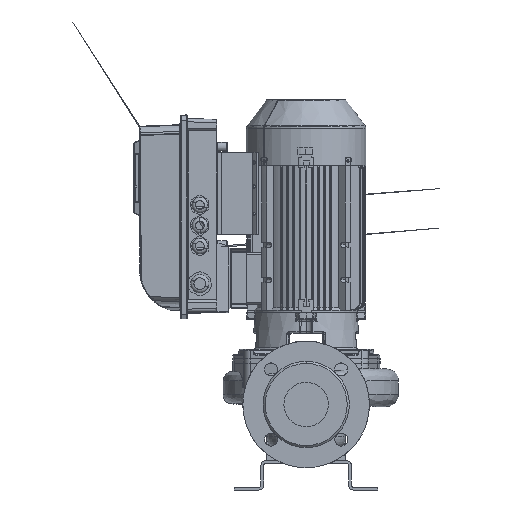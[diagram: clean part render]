
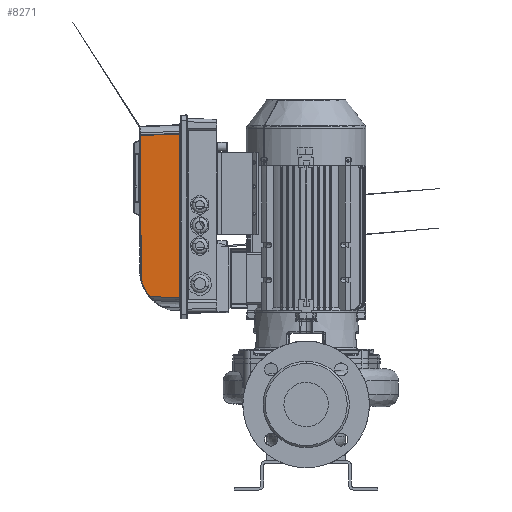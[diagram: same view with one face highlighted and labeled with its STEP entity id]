
A CAD part, front view. The second image highlights one B-rep face of the part: STEP entity #8271.
In plain terms, the highlighted planar face has unit normal (-0.035, -0.999, 0) as drawn and (-0.999, 0, -0.035) by its records, which use the part's own axes.
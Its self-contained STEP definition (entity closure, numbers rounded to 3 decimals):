
#8271=ADVANCED_FACE('',(#16807),#16808,.F.);
#16807=FACE_OUTER_BOUND('',#37256,.T.);
#16808=PLANE('',#37257);
#37256=EDGE_LOOP('',(#60703,#60704,#60705,#60706,#60707,#60708,#60709));
#37257=AXIS2_PLACEMENT_3D('',#60710,#60711,#60712);
#60703=ORIENTED_EDGE('',*,*,#96645,.F.);
#60704=ORIENTED_EDGE('',*,*,#96658,.T.);
#60705=ORIENTED_EDGE('',*,*,#96659,.F.);
#60706=ORIENTED_EDGE('',*,*,#96660,.T.);
#60707=ORIENTED_EDGE('',*,*,#95794,.F.);
#60708=ORIENTED_EDGE('',*,*,#96661,.F.);
#60709=ORIENTED_EDGE('',*,*,#95849,.F.);
#60710=CARTESIAN_POINT('',(-206.0,85.982,60.0));
#60711=DIRECTION('',(0.999,0.,0.035));
#60712=DIRECTION('',(0.035,0.0,-0.999));
#95794=EDGE_CURVE('',#124383,#124385,#124386,.T.);
#95849=EDGE_CURVE('',#124479,#124481,#124482,.T.);
#96645=EDGE_CURVE('',#125621,#124479,#125623,.T.);
#96658=EDGE_CURVE('',#125621,#125638,#125639,.T.);
#96659=EDGE_CURVE('',#125640,#125638,#125641,.T.);
#96660=EDGE_CURVE('',#125640,#124385,#125642,.F.);
#96661=EDGE_CURVE('',#124481,#124383,#125643,.T.);
#124383=VERTEX_POINT('',#148775);
#124385=VERTEX_POINT('',#148795);
#124386=LINE('',#148796,#148797);
#124479=VERTEX_POINT('',#149173);
#124481=VERTEX_POINT('',#149175);
#124482=LINE('',#149176,#149177);
#125621=VERTEX_POINT('',#152106);
#125623=LINE('',#152108,#152109);
#125638=VERTEX_POINT('',#152205);
#125639=LINE('',#152206,#152207);
#125640=VERTEX_POINT('',#152208);
#125641=ELLIPSE('',#152209,59.036,59.0);
#125642=B_SPLINE_CURVE_WITH_KNOTS('',2,(#152210,#152211,#152212),.UNSPECIFIED.,.F.,.F.,(3,3),(5677.042,5783.014),.UNSPECIFIED.);
#125643=B_SPLINE_CURVE_WITH_KNOTS('',3,(#152213,#152214,#152215,#152216,#152217,#152218,#152219,#152220,#152221,#152222,#152223,#152224,#152225,#152226,#152227,#152228,#152229,#152230),.UNSPECIFIED.,.F.,.F.,(4,2,2,2,2,2,2,2,4),(2.002,10.516,20.712,27.085,31.069,35.052,41.425,51.622,60.135),.UNSPECIFIED.);
#148775=CARTESIAN_POINT('',(-205.966,277.053,59.035));
#148795=CARTESIAN_POINT('',(-205.966,38.087,59.035));
#148796=CARTESIAN_POINT('',(-205.966,243.721,59.035));
#148797=VECTOR('',#181540,1.0);
#149173=CARTESIAN_POINT('',(-203.938,129.042,0.965));
#149175=CARTESIAN_POINT('',(-203.938,275.263,0.965));
#149176=CARTESIAN_POINT('',(-203.938,42.991,0.965));
#149177=VECTOR('',#181604,1.0);
#152106=CARTESIAN_POINT('',(-204.008,129.042,2.965));
#152108=CARTESIAN_POINT('',(-204.969,129.042,30.472));
#152109=VECTOR('',#182410,1.0);
#152205=CARTESIAN_POINT('',(-204.008,62.811,2.965));
#152206=CARTESIAN_POINT('',(-204.008,107.012,2.965));
#152207=VECTOR('',#182418,1.0);
#152208=CARTESIAN_POINT('',(-204.438,39.541,15.259));
#152209=AXIS2_PLACEMENT_3D('',#182419,#182420,#182421);
#152210=CARTESIAN_POINT('',(-206.0,38.053,60.0));
#152211=CARTESIAN_POINT('',(-205.238,38.818,38.166));
#152212=CARTESIAN_POINT('',(-204.392,39.582,13.947));
#152213=CARTESIAN_POINT('',(-203.938,275.263,0.965));
#152214=CARTESIAN_POINT('',(-204.037,275.346,3.8));
#152215=CARTESIAN_POINT('',(-204.136,275.429,6.635));
#152216=CARTESIAN_POINT('',(-204.354,275.614,12.865));
#152217=CARTESIAN_POINT('',(-204.473,275.715,16.26));
#152218=CARTESIAN_POINT('',(-204.665,275.882,21.778));
#152219=CARTESIAN_POINT('',(-204.739,275.946,23.9));
#152220=CARTESIAN_POINT('',(-204.86,276.051,27.348));
#152221=CARTESIAN_POINT('',(-204.906,276.092,28.675));
#152222=CARTESIAN_POINT('',(-204.999,276.174,31.327));
#152223=CARTESIAN_POINT('',(-205.045,276.215,32.653));
#152224=CARTESIAN_POINT('',(-205.165,276.322,36.102));
#152225=CARTESIAN_POINT('',(-205.24,276.388,38.224));
#152226=CARTESIAN_POINT('',(-205.432,276.561,43.741));
#152227=CARTESIAN_POINT('',(-205.551,276.669,47.136));
#152228=CARTESIAN_POINT('',(-205.768,276.869,53.366));
#152229=CARTESIAN_POINT('',(-205.867,276.961,56.2));
#152230=CARTESIAN_POINT('',(-205.966,277.053,59.035));
#181540=DIRECTION('',(0.,-1.0,0.0));
#181604=DIRECTION('',(0.,1.0,0.0));
#182410=DIRECTION('',(0.035,-0.0,-0.999));
#182418=DIRECTION('',(0.,-1.0,0.0));
#182419=CARTESIAN_POINT('',(-205.999,78.042,59.965));
#182420=DIRECTION('',(0.999,0.,0.035));
#182421=DIRECTION('',(0.035,0.,-0.999));
